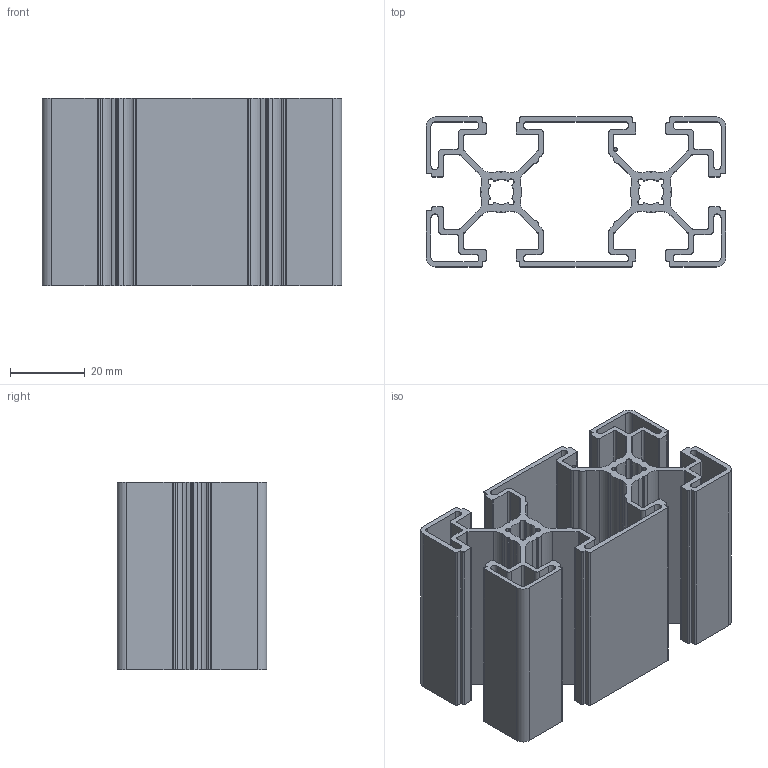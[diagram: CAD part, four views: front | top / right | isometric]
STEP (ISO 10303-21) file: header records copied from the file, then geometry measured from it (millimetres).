
FILE_DESCRIPTION (( 'STEP AP203' ), '1' );
FILE_NAME ('40X80 HAFÝF.STEP', '2018-04-06T08:44:10', ( '' ), ( '' ), 'SwSTEP 2.0', 'SolidWorks 2014', '' );
FILE_SCHEMA (( 'CONFIG_CONTROL_DESIGN' ));
Length unit declared in the file: millimetre
Products named in the file (1): 40X80 HAFÝF
Bounding box: 80 x 40 x 50 mm (x, y, z)
Volume: 34627.4 mm3; surface area: 47194.2 mm2
Topology: 1 solids, 1 shells, 360 faces, 1079 edges, 715 vertices
Faces by surface type: cylinder 212, plane 148
Full cylindrical faces by diameter (mm): 1 x3
Entity records: 12396 total; most frequent: DIRECTION 2225, CARTESIAN_POINT 2157, ORIENTED_EDGE 2154, EDGE_CURVE 1077, AXIS2_PLACEMENT_3D 787, VERTEX_POINT 719, VECTOR 651, LINE 651
